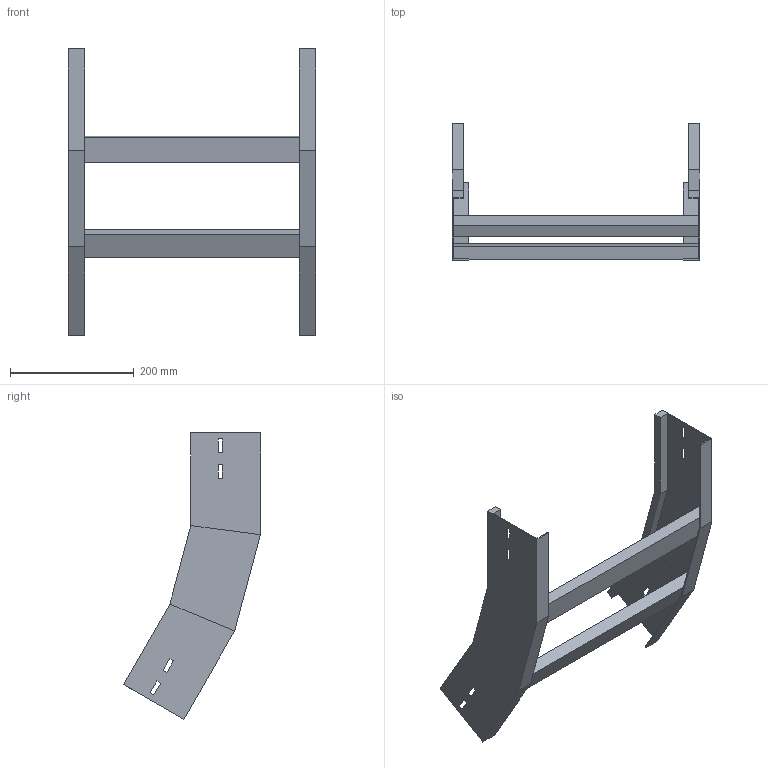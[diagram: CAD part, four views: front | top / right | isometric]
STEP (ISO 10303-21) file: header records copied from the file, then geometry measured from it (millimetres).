
FILE_DESCRIPTION (( 'STEP AP214' ), '1' );
FILE_NAME ('B2X32B5J400XX.step', '2025-03-20T10:00:57', ( '' ), ( '' ), 'SwSTEP 2.0', 'SolidWorks 2023', '' );
FILE_SCHEMA (( 'AUTOMOTIVE_DESIGN' ));
Length unit declared in the file: millimetre
Products named in the file (3): LONGH.SALITA_30°_H112.5_R500; B2X32B5J400XX; TRAVERSINO_400
Assembly tree (4 placements, depth 2):
  B2X32B5J400XX
    LONGH.SALITA_30°_H112.5_R500  x2
    TRAVERSINO_400  x2
Bounding box: 400 x 221.37 x 462.57 mm (x, y, z)
Volume: 1061890.7 mm3; surface area: 387037.4 mm2
Topology: 4 solids, 4 shells, 96 faces, 232 edges, 144 vertices
Faces by surface type: plane 96
Entity records: 1472 total; most frequent: CARTESIAN_POINT 243, ORIENTED_EDGE 232, DIRECTION 226, EDGE_CURVE 116, LINE 116, VECTOR 116, VERTEX_POINT 72, EDGE_LOOP 56
